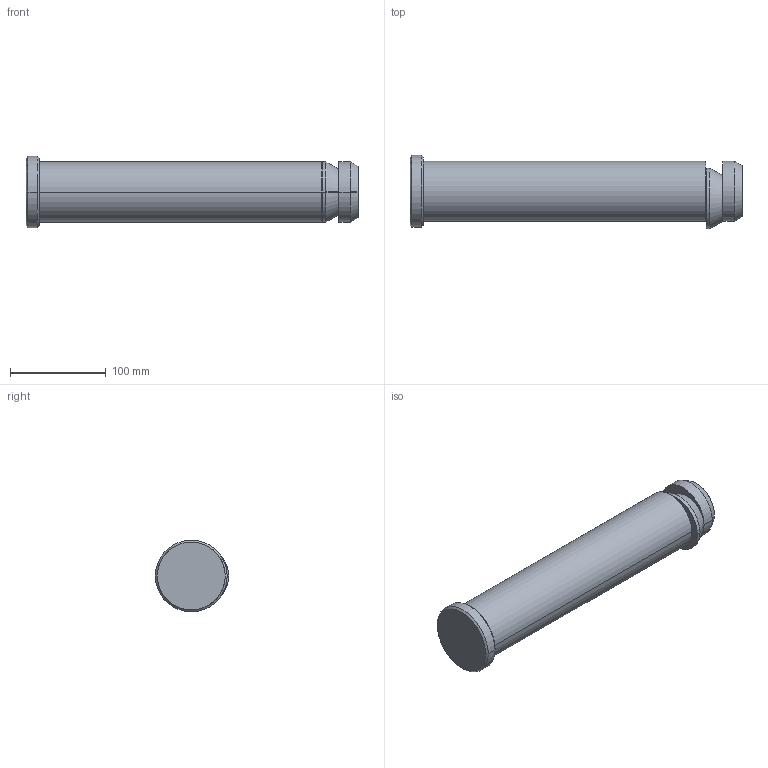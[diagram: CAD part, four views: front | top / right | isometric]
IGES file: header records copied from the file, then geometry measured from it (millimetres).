
Start section: START RECORD GO HERE.
Global section: file name: 395W-063-347.igs; native system: DASSAULT SYSTEMES CATIA V5 R20 - www.3ds.com; preprocessor: CATIA Version 5 Release 20 ; author: Utente; organization: NB04-ASUS; date: 20200410.165511; units: millimetre
Bounding box: 347 x 76.51 x 75 mm (x, y, z)
Surface area: 87191.3 mm2 (no closed solid volume)
Topology: 0 solids, 0 shells, 27 faces, 116 edges, 116 vertices
Faces by surface type: revolution 20, extrusion 7
